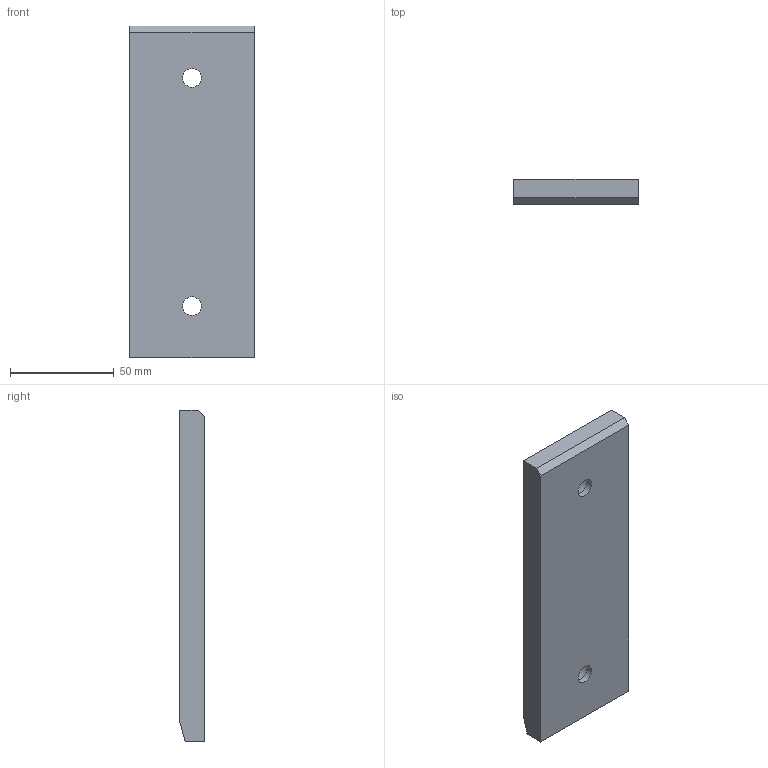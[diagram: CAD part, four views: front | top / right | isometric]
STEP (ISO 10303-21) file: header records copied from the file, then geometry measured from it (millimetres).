
FILE_DESCRIPTION (( 'STEP AP214' ), '1' );
FILE_NAME ('SW222-01-60x160.STEP', '2020-10-14T12:50:06', ( 'August' ), ( '' ), 'SwSTEP 2.0', 'SolidWorks 2018', '' );
FILE_SCHEMA (( 'AUTOMOTIVE_DESIGN' ));
Length unit declared in the file: millimetre
Products named in the file (1): SW222-01-60x160
Bounding box: 60 x 12 x 160 mm (x, y, z)
Volume: 94827.4 mm3; surface area: 32796.6 mm2
Topology: 1 solids, 1 shells, 161 faces, 329 edges, 218 vertices
Faces by surface type: cylinder 101, plane 56, cone 4
Entity records: 4632 total; most frequent: DIRECTION 859, CARTESIAN_POINT 709, ORIENTED_EDGE 658, AXIS2_PLACEMENT_3D 368, EDGE_CURVE 329, VERTEX_POINT 218, EDGE_LOOP 213, CIRCLE 206
